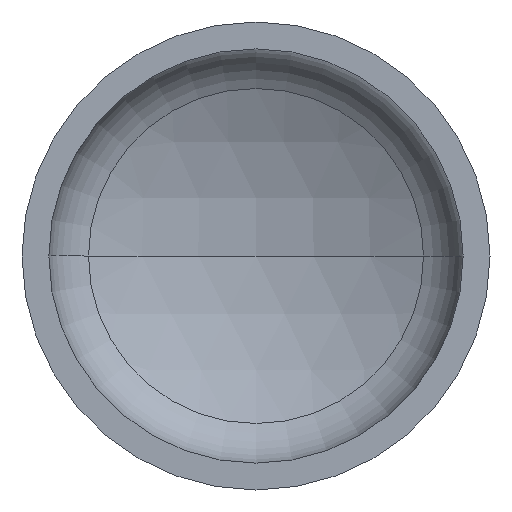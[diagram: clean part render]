
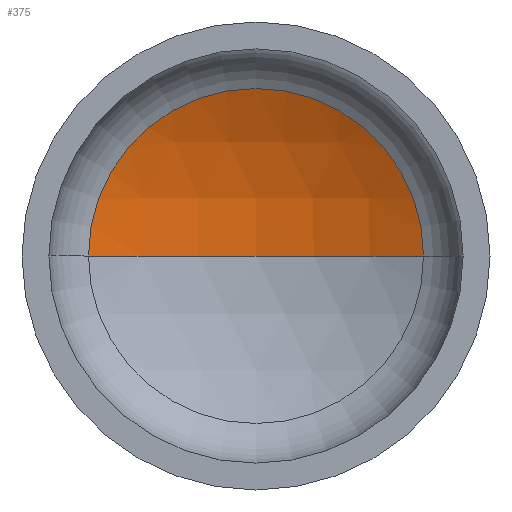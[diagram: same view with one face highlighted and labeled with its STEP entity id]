
A CAD part, front view. The second image highlights one B-rep face of the part: STEP entity #375.
In plain terms, the highlighted spherical face has radius 1200 mm.
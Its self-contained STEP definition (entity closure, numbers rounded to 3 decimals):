
#1 = AXIS2_PLACEMENT_3D ( 'NONE', #173, #159, #392 ) ;
#26 = EDGE_LOOP ( 'NONE', ( #111, #104, #48 ) ) ;
#44 = AXIS2_PLACEMENT_3D ( 'NONE', #225, #228, #260 ) ;
#45 = AXIS2_PLACEMENT_3D ( 'NONE', #365, #203, #213 ) ;
#48 = ORIENTED_EDGE ( 'NONE', *, *, #153, .T. ) ;
#49 = AXIS2_PLACEMENT_3D ( 'NONE', #50, #384, #341 ) ;
#50 = CARTESIAN_POINT ( 'NONE',  ( 0., 305.694, 0. ) ) ;
#97 = VERTEX_POINT ( 'NONE', #321 ) ;
#104 = ORIENTED_EDGE ( 'NONE', *, *, #160, .T. ) ;
#111 = ORIENTED_EDGE ( 'NONE', *, *, #166, .F. ) ;
#118 = CIRCLE ( 'NONE', #44, 1200. ) ;
#130 = VERTEX_POINT ( 'NONE', #209 ) ;
#136 = VERTEX_POINT ( 'NONE', #219 ) ;
#153 = EDGE_CURVE ( 'NONE', #97, #130, #378, .T. ) ;
#159 = DIRECTION ( 'NONE',  ( 0., 0., -1. ) ) ;
#160 = EDGE_CURVE ( 'NONE', #136, #97, #320, .T. ) ;
#165 = FACE_OUTER_BOUND ( 'NONE', #26, .T. ) ;
#166 = EDGE_CURVE ( 'NONE', #136, #130, #118, .T. ) ;
#173 = CARTESIAN_POINT ( 'NONE',  ( 0., -767.493, 0. ) ) ;
#203 = DIRECTION ( 'NONE',  ( 0., 0., -1. ) ) ;
#209 = CARTESIAN_POINT ( 'NONE',  ( -536.907, 305.694, 0. ) ) ;
#213 = DIRECTION ( 'NONE',  ( -1., 0., 0. ) ) ;
#219 = CARTESIAN_POINT ( 'NONE',  ( 0., 432.507, 0. ) ) ;
#225 = CARTESIAN_POINT ( 'NONE',  ( 0., -767.493, 0. ) ) ;
#228 = DIRECTION ( 'NONE',  ( 0., 0., 1. ) ) ;
#260 = DIRECTION ( 'NONE',  ( 1., 0., 0. ) ) ;
#320 = CIRCLE ( 'NONE', #45, 1200. ) ;
#321 = CARTESIAN_POINT ( 'NONE',  ( 536.907, 305.694, 0. ) ) ;
#341 = DIRECTION ( 'NONE',  ( 1., 0., 0. ) ) ;
#365 = CARTESIAN_POINT ( 'NONE',  ( 0., -767.493, 0. ) ) ;
#375 = ADVANCED_FACE ( 'NONE', ( #165 ), #395, .F. ) ;
#378 = CIRCLE ( 'NONE', #49, 536.907 ) ;
#384 = DIRECTION ( 'NONE',  ( 0., -1., 0. ) ) ;
#392 = DIRECTION ( 'NONE',  ( -1., 0., 0. ) ) ;
#395 = SPHERICAL_SURFACE ( 'NONE', #1, 1200. ) ;
